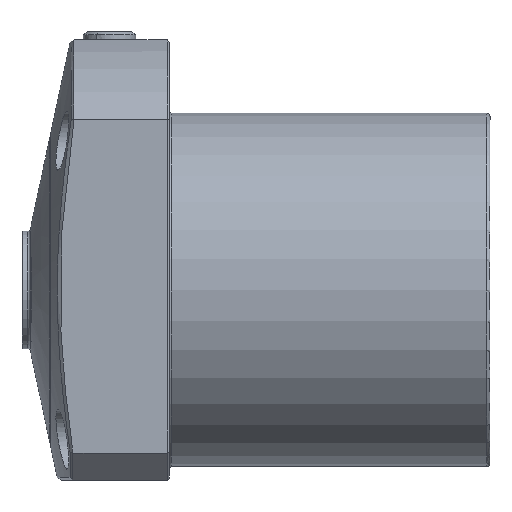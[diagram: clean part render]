
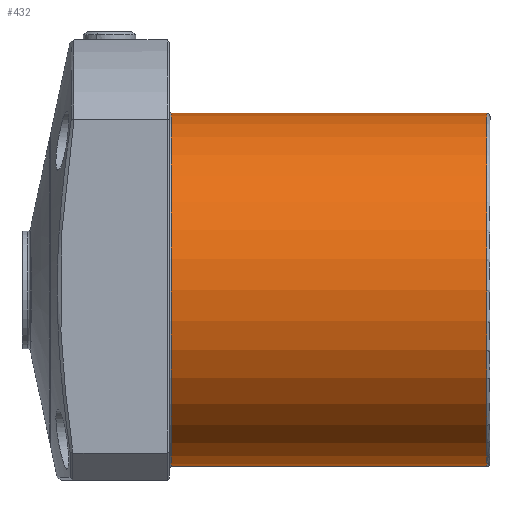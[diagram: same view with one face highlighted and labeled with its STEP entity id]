
A CAD part, left-side view. The second image highlights one B-rep face of the part: STEP entity #432.
In plain terms, the highlighted cylindrical face has radius 32.5 mm (diameter 65 mm), a partial arc.
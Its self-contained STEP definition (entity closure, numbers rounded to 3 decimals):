
#432=ADVANCED_FACE('',(#678),#567,.T.);
#567=CYLINDRICAL_SURFACE('',#3167,32.5);
#678=FACE_OUTER_BOUND('',#866,.T.);
#866=EDGE_LOOP('',(#1678,#1679,#1680,#1681));
#1101=LINE('',#4963,#1257);
#1102=LINE('',#4965,#1258);
#1257=VECTOR('',#3798,1.);
#1258=VECTOR('',#3801,1.);
#1678=ORIENTED_EDGE('',*,*,#2579,.F.);
#1679=ORIENTED_EDGE('',*,*,#2629,.T.);
#1680=ORIENTED_EDGE('',*,*,#2581,.T.);
#1681=ORIENTED_EDGE('',*,*,#2517,.T.);
#2233=VERTEX_POINT('',#4719);
#2234=VERTEX_POINT('',#4720);
#2240=VERTEX_POINT('',#4740);
#2241=VERTEX_POINT('',#4742);
#2517=EDGE_CURVE('',#2241,#2240,#2819,.T.);
#2579=EDGE_CURVE('',#2234,#2240,#1101,.T.);
#2581=EDGE_CURVE('',#2233,#2241,#1102,.T.);
#2629=EDGE_CURVE('',#2234,#2233,#2879,.T.);
#2819=CIRCLE('',#3078,32.5);
#2879=CIRCLE('',#3166,32.5);
#3078=AXIS2_PLACEMENT_3D('',#4741,#3684,#3685);
#3166=AXIS2_PLACEMENT_3D('',#5058,#3902,#3903);
#3167=AXIS2_PLACEMENT_3D('',#5059,#3904,#3905);
#3684=DIRECTION('',(0.,-1.,0.));
#3685=DIRECTION('',(0.,0.,1.));
#3798=DIRECTION('',(0.,1.,0.));
#3801=DIRECTION('',(0.,1.,0.));
#3902=DIRECTION('',(0.,1.,0.));
#3903=DIRECTION('',(0.,0.,-1.));
#3904=DIRECTION('',(0.,1.,0.));
#3905=DIRECTION('',(0.,0.,-1.));
#4719=CARTESIAN_POINT('',(0.,0.6,32.5));
#4720=CARTESIAN_POINT('',(0.,0.6,-32.5));
#4740=CARTESIAN_POINT('',(0.,58.6,-32.5));
#4741=CARTESIAN_POINT('',(0.,58.6,0.));
#4742=CARTESIAN_POINT('',(0.,58.6,32.5));
#4963=CARTESIAN_POINT('',(0.,86.1,-32.5));
#4965=CARTESIAN_POINT('',(0.,86.1,32.5));
#5058=CARTESIAN_POINT('',(0.,0.6,0.));
#5059=CARTESIAN_POINT('',(0.,86.1,0.));
